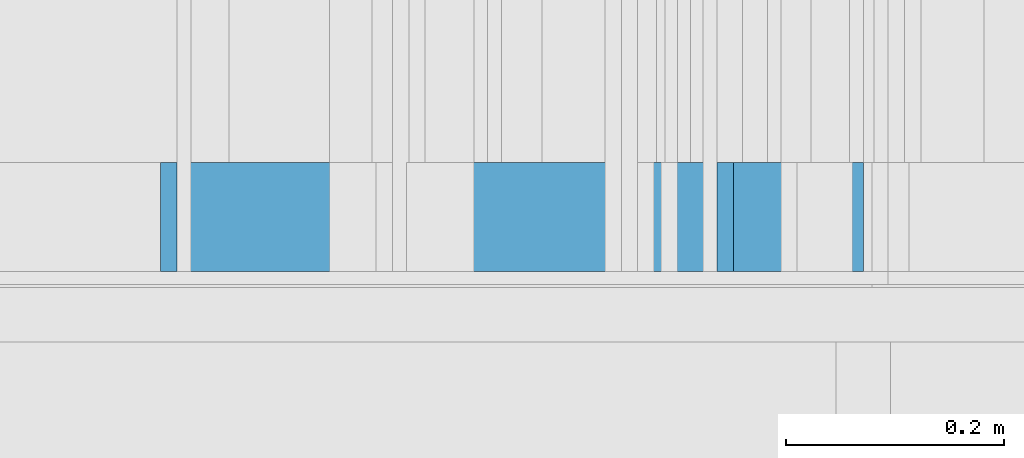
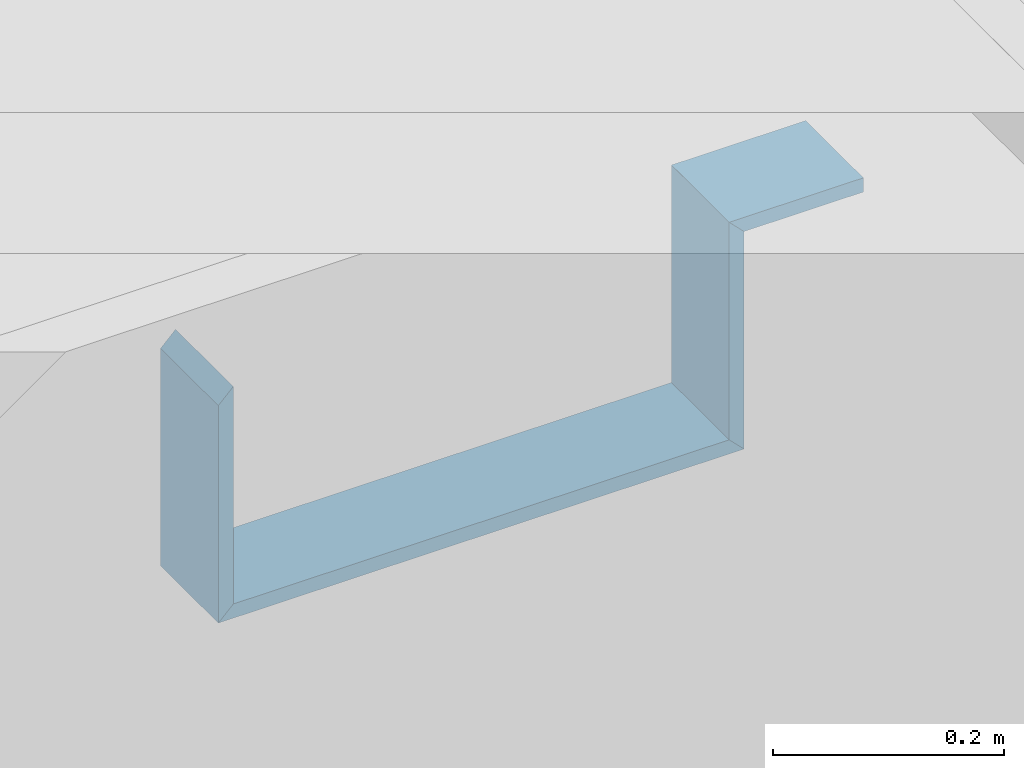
# One storey, part 214 of 583: 4 building element parts, 4 elements without a shape of their own.
"""IFC2X3 building model written with IfcOpenShell, lengths in metres."""

from ifc_helpers import new_model, entity, si_unit, converted_unit, derived_unit, money_unit, direction, frame, origin_with_axes, place, context, subcontext, project, spatial, polyline, outline, extrude, material, type_object, element, aggregate, save


model = new_model("IFC2X3")

# Units and contexts
model_context = context("Model", 3, precision=1e-05, world=origin_with_axes(), true_north=direction((0.0, 1.0)))
body_context = subcontext(model_context, "Body", "Model", "MODEL_VIEW", scale=1.0)
ifc_project = project(units=[si_unit("LENGTHUNIT", "METRE"), si_unit("AREAUNIT", "SQUARE_METRE"), si_unit("VOLUMEUNIT", "CUBIC_METRE"), si_unit("ABSORBEDDOSEUNIT", "GRAY"), si_unit("AMOUNTOFSUBSTANCEUNIT", "MOLE"), si_unit("DOSEEQUIVALENTUNIT", "SIEVERT"), si_unit("ELECTRICCAPACITANCEUNIT", "FARAD"), si_unit("ELECTRICCHARGEUNIT", "COULOMB"), si_unit("ELECTRICCONDUCTANCEUNIT", "SIEMENS"), si_unit("ELECTRICCURRENTUNIT", "AMPERE"), si_unit("ELECTRICRESISTANCEUNIT", "OHM"), si_unit("ELECTRICVOLTAGEUNIT", "VOLT"), si_unit("ENERGYUNIT", "JOULE"), si_unit("FORCEUNIT", "NEWTON"), si_unit("FREQUENCYUNIT", "HERTZ"), si_unit("ILLUMINANCEUNIT", "LUX"), si_unit("INDUCTANCEUNIT", "HENRY"), si_unit("LUMINOUSFLUXUNIT", "LUMEN"), si_unit("LUMINOUSINTENSITYUNIT", "CANDELA"), si_unit("MAGNETICFLUXDENSITYUNIT", "TESLA"), si_unit("MAGNETICFLUXUNIT", "WEBER"), si_unit("MASSUNIT", "GRAM"), converted_unit("PLANEANGLEUNIT", "degree", entity("IfcReal", 0.0174532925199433), si_unit("PLANEANGLEUNIT", "RADIAN"), dimensions=[0, 0, 0, 0, 0, 0, 0]), si_unit("POWERUNIT", "WATT"), si_unit("PRESSUREUNIT", "PASCAL"), si_unit("RADIOACTIVITYUNIT", "BECQUEREL"), si_unit("SOLIDANGLEUNIT", "STERADIAN"), si_unit("THERMODYNAMICTEMPERATUREUNIT", "KELVIN"), si_unit("TIMEUNIT", "SECOND"), derived_unit("ACCELERATIONUNIT", [(si_unit("LENGTHUNIT", "METRE"), 1), (si_unit("TIMEUNIT", "SECOND"), -2)]), derived_unit("ANGULARVELOCITYUNIT", [(converted_unit("PLANEANGLEUNIT", "degree", entity("IfcReal", 0.0174532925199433), si_unit("PLANEANGLEUNIT", "RADIAN"), dimensions=[0, 0, 0, 0, 0, 0, 0]), 1), (si_unit("TIMEUNIT", "SECOND"), -1)]), derived_unit("CURVATUREUNIT", [(converted_unit("PLANEANGLEUNIT", "degree", entity("IfcReal", 0.0174532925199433), si_unit("PLANEANGLEUNIT", "RADIAN"), dimensions=[0, 0, 0, 0, 0, 0, 0]), 1), (si_unit("LENGTHUNIT", "METRE"), -1)]), derived_unit("DYNAMICVISCOSITYUNIT", [(si_unit("PRESSUREUNIT", "PASCAL"), 1), (si_unit("TIMEUNIT", "SECOND"), 1)]), derived_unit("HEATFLUXDENSITYUNIT", [(si_unit("POWERUNIT", "WATT"), 1), (si_unit("LENGTHUNIT", "METRE"), -2)]), derived_unit("HEATINGVALUEUNIT", [(si_unit("ENERGYUNIT", "JOULE"), 1), (si_unit("MASSUNIT", "GRAM"), -1)]), derived_unit("INTEGERCOUNTRATEUNIT", [(si_unit("TIMEUNIT", "SECOND"), -1)]), derived_unit("IONCONCENTRATIONUNIT", [(si_unit("MASSUNIT", "GRAM"), 1), (si_unit("VOLUMEUNIT", "CUBIC_METRE"), -1)]), derived_unit("ISOTHERMALMOISTURECAPACITYUNIT", [(si_unit("VOLUMEUNIT", "CUBIC_METRE"), 1), (si_unit("MASSUNIT", "GRAM"), -1)]), derived_unit("KINEMATICVISCOSITYUNIT", [(si_unit("AREAUNIT", "SQUARE_METRE"), 1), (si_unit("TIMEUNIT", "SECOND"), -1)]), derived_unit("LINEARFORCEUNIT", [(si_unit("FORCEUNIT", "NEWTON"), 1), (si_unit("LENGTHUNIT", "METRE"), -1)]), derived_unit("LINEARMOMENTUNIT", [(si_unit("FORCEUNIT", "NEWTON"), 1), (si_unit("LENGTHUNIT", "METRE"), -1)]), derived_unit("LINEARSTIFFNESSUNIT", [(si_unit("FORCEUNIT", "NEWTON"), 1), (si_unit("LENGTHUNIT", "METRE"), -1)]), derived_unit("LINEARVELOCITYUNIT", [(si_unit("LENGTHUNIT", "METRE"), 1), (si_unit("TIMEUNIT", "SECOND"), -1)]), derived_unit("LUMINOUSINTENSITYDISTRIBUTIONUNIT", [(si_unit("LUMINOUSINTENSITYUNIT", "CANDELA"), 1), (si_unit("LUMINOUSFLUXUNIT", "LUMEN"), -1)]), derived_unit("MASSDENSITYUNIT", [(si_unit("MASSUNIT", "GRAM"), 1), (si_unit("VOLUMEUNIT", "CUBIC_METRE"), -1)]), derived_unit("MASSFLOWRATEUNIT", [(si_unit("MASSUNIT", "GRAM"), 1), (si_unit("TIMEUNIT", "SECOND"), -1)]), derived_unit("MASSPERLENGTHUNIT", [(si_unit("MASSUNIT", "GRAM"), 1), (si_unit("LENGTHUNIT", "METRE"), -1)]), derived_unit("MODULUSOFELASTICITYUNIT", [(si_unit("FORCEUNIT", "NEWTON"), 1), (si_unit("AREAUNIT", "SQUARE_METRE"), -1)]), derived_unit("MODULUSOFLINEARSUBGRADEREACTIONUNIT", [(si_unit("FORCEUNIT", "NEWTON"), 1), (si_unit("LENGTHUNIT", "METRE"), -2)]), derived_unit("MODULUSOFROTATIONALSUBGRADEREACTIONUNIT", [(si_unit("FORCEUNIT", "NEWTON"), 1), (si_unit("LENGTHUNIT", "METRE"), 1)]), derived_unit("MODULUSOFSUBGRADEREACTIONUNIT", [(si_unit("FORCEUNIT", "NEWTON"), 1), (si_unit("VOLUMEUNIT", "CUBIC_METRE"), -1)]), derived_unit("MOISTUREDIFFUSIVITYUNIT", [(si_unit("VOLUMEUNIT", "CUBIC_METRE"), 1), (si_unit("TIMEUNIT", "SECOND"), -1)]), derived_unit("MOLECULARWEIGHTUNIT", [(si_unit("MASSUNIT", "GRAM"), 1), (si_unit("AMOUNTOFSUBSTANCEUNIT", "MOLE"), -1)]), derived_unit("PLANARFORCEUNIT", [(si_unit("FORCEUNIT", "NEWTON"), 1), (si_unit("LENGTHUNIT", "METRE"), -2)]), derived_unit("ROTATIONALFREQUENCYUNIT", [(si_unit("TIMEUNIT", "SECOND"), -1)]), derived_unit("ROTATIONALMASSUNIT", [(si_unit("MASSUNIT", "GRAM"), 1), (si_unit("LENGTHUNIT", "METRE"), 2)]), derived_unit("ROTATIONALSTIFFNESSUNIT", [(si_unit("FORCEUNIT", "NEWTON"), 1), (si_unit("LENGTHUNIT", "METRE"), 1), (converted_unit("PLANEANGLEUNIT", "degree", entity("IfcReal", 0.0174532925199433), si_unit("PLANEANGLEUNIT", "RADIAN"), dimensions=[0, 0, 0, 0, 0, 0, 0]), -1)]), derived_unit("SECTIONAREAINTEGRALUNIT", [(si_unit("LENGTHUNIT", "METRE"), 5)]), derived_unit("SECTIONMODULUSUNIT", [(si_unit("LENGTHUNIT", "METRE"), 3)]), derived_unit("SHEARMODULUSUNIT", [(si_unit("FORCEUNIT", "NEWTON"), 1), (si_unit("AREAUNIT", "SQUARE_METRE"), -1)]), derived_unit("SOUNDPOWERUNIT", [(si_unit("ENERGYUNIT", "JOULE"), 1), (si_unit("TIMEUNIT", "SECOND"), -1)]), derived_unit("SPECIFICHEATCAPACITYUNIT", [(si_unit("FORCEUNIT", "NEWTON"), 1), (si_unit("MASSUNIT", "GRAM"), -1), (si_unit("THERMODYNAMICTEMPERATUREUNIT", "KELVIN"), -1)]), derived_unit("TEMPERATUREGRADIENTUNIT", [(si_unit("THERMODYNAMICTEMPERATUREUNIT", "KELVIN"), 1), (si_unit("LENGTHUNIT", "METRE"), -1)]), derived_unit("THERMALADMITTANCEUNIT", [(si_unit("POWERUNIT", "WATT"), 1), (si_unit("AREAUNIT", "SQUARE_METRE"), -1), (si_unit("THERMODYNAMICTEMPERATUREUNIT", "KELVIN"), -1)]), derived_unit("THERMALCONDUCTANCEUNIT", [(si_unit("POWERUNIT", "WATT"), 1), (si_unit("LENGTHUNIT", "METRE"), -1), (si_unit("THERMODYNAMICTEMPERATUREUNIT", "KELVIN"), -1)]), derived_unit("THERMALEXPANSIONCOEFFICIENTUNIT", [(si_unit("THERMODYNAMICTEMPERATUREUNIT", "KELVIN"), -1)]), derived_unit("THERMALRESISTANCEUNIT", [(si_unit("AREAUNIT", "SQUARE_METRE"), 1), (si_unit("POWERUNIT", "WATT"), -1)]), derived_unit("THERMALTRANSMITTANCEUNIT", [(si_unit("POWERUNIT", "WATT"), 1), (si_unit("AREAUNIT", "SQUARE_METRE"), -1), (si_unit("THERMODYNAMICTEMPERATUREUNIT", "KELVIN"), -1)]), derived_unit("TORQUEUNIT", [(si_unit("FORCEUNIT", "NEWTON"), 1), (si_unit("LENGTHUNIT", "METRE"), 1)]), derived_unit("VAPORPERMEABILITYUNIT", [(si_unit("MASSUNIT", "GRAM"), 1), (si_unit("TIMEUNIT", "SECOND"), -1)]), derived_unit("VOLUMETRICFLOWRATEUNIT", [(si_unit("VOLUMEUNIT", "CUBIC_METRE"), 1), (si_unit("TIMEUNIT", "SECOND"), -1)]), derived_unit("WARPINGCONSTANTUNIT", [(si_unit("LENGTHUNIT", "METRE"), 6)]), derived_unit("WARPINGMOMENTUNIT", [(si_unit("FORCEUNIT", "NEWTON"), 1), (si_unit("LENGTHUNIT", "METRE"), 2)]), money_unit("GBP")], contexts=[model_context])

# Site, building, storey
site_placement = place(None, origin_with_axes())
site = spatial("IfcSite", under=ifc_project, at=site_placement, Name="Site", CompositionType="ELEMENT")
building_placement = place(site_placement, origin_with_axes())
building = spatial("IfcBuilding", under=site, at=building_placement, Name="Building01", CompositionType="ELEMENT")
storey_placement = place(building_placement, frame((0.0, 0.0, 20.78), z_axis=(0.0, 0.0, 1.0), x_axis=(1.0, 0.0, 0.0)))
storey = spatial("IfcBuildingStorey", under=building, at=storey_placement, Name="RL", CompositionType="ELEMENT", Elevation=20.78)

# Wall, building element part
wall_type = type_object("IfcWallType", Name="SHE_A-Walls_Type06d_ExternalWallInsulation_48mm", PredefinedType="NOTDEFINED")
wall_1_placement = place(storey_placement, frame((6.1, 12.13, 5.93), z_axis=(0.0, 1.0, 0.0), x_axis=(0.0, 0.0, -1.0)))
wall_1 = element("IfcWall", 1, at=wall_1_placement, inside=storey, type_object=wall_type, Name="6D", ObjectType="SHE_A-Walls_Type06d_ExternalWallInsulation_48mm")
ifc_material = material(Name="A_BSUK_Walls_Timber")
building_element_part_1_placement = place(wall_1_placement, origin_with_axes())
building_element_part_1 = element("IfcBuildingElementPart", 2, at=building_element_part_1_placement, material=ifc_material, Name="2", context=body_context, shape_type="SweptSolid", body=[
    extrude(outline(polyline([(0.293, 0.063), (0.063, 0.063), (0.048, 0.048), (0.278, 0.048), (0.293, 0.063)])), frame((0.0, 0.0, 0.015), z_axis=(0.0, 0.0, 1.0), x_axis=(1.0, 0.0, 0.0)), (0.0, 0.0, 1.0), 0.1),
])
aggregate(wall_1, [building_element_part_1])

wall_2_placement = place(storey_placement, frame((6.1, 12.13, 5.7), z_axis=(0.0, 1.0, 0.0), x_axis=(1.0, 0.0, 0.0)))
wall_2 = element("IfcWall", 3, at=wall_2_placement, inside=storey, type_object=wall_type, Name="6D", ObjectType="SHE_A-Walls_Type06d_ExternalWallInsulation_48mm")
building_element_part_2_placement = place(wall_2_placement, origin_with_axes())
building_element_part_2 = element("IfcBuildingElementPart", 4, at=building_element_part_2_placement, material=ifc_material, Name="2", context=body_context, shape_type="SweptSolid", body=[
    extrude(outline(polyline([(0.463, 0.063), (-0.063, 0.063), (-0.048, 0.048), (0.448, 0.048), (0.463, 0.063)])), frame((0.0, 0.0, 0.015), z_axis=(0.0, 0.0, 1.0), x_axis=(1.0, 0.0, 0.0)), (0.0, 0.0, 1.0), 0.1),
])
aggregate(wall_2, [building_element_part_2])

wall_3_placement = place(storey_placement, frame((6.5, 12.13, 5.7), z_axis=(0.0, 1.0, 0.0), x_axis=(0.0, 0.0, 1.0)))
wall_3 = element("IfcWall", 5, at=wall_3_placement, inside=storey, type_object=wall_type, Name="6D", ObjectType="SHE_A-Walls_Type06d_ExternalWallInsulation_48mm")
building_element_part_3_placement = place(wall_3_placement, origin_with_axes())
building_element_part_3 = element("IfcBuildingElementPart", 6, at=building_element_part_3_placement, material=ifc_material, Name="2", context=body_context, shape_type="SweptSolid", body=[
    extrude(outline(polyline([(0.167, 0.063), (-0.063, 0.063), (-0.048, 0.048), (0.182, 0.048), (0.167, 0.063)])), frame((0.0, 0.0, 0.015), z_axis=(0.0, 0.0, 1.0), x_axis=(1.0, 0.0, 0.0)), (0.0, 0.0, 1.0), 0.1),
])
aggregate(wall_3, [building_element_part_3])

wall_4_placement = place(storey_placement, frame((6.5, 12.13, 5.93), z_axis=(0.0, 1.0, 0.0), x_axis=(1.0, 0.0, 0.0)))
wall_4 = element("IfcWall", 7, at=wall_4_placement, inside=storey, type_object=wall_type, Name="6D", ObjectType="SHE_A-Walls_Type06d_ExternalWallInsulation_48mm")
building_element_part_4_placement = place(wall_4_placement, origin_with_axes())
building_element_part_4 = element("IfcBuildingElementPart", 8, at=building_element_part_4_placement, material=ifc_material, Name="2", context=body_context, shape_type="SweptSolid", body=[
    extrude(outline(polyline([(0.063, 0.063), (0.048, 0.048), (0.182326, 0.048), (0.182326, 0.063), (0.063, 0.063)])), frame((0.0, 0.0, 0.015), z_axis=(0.0, 0.0, 1.0), x_axis=(1.0, 0.0, 0.0)), (0.0, 0.0, 1.0), 0.1),
])
aggregate(wall_4, [building_element_part_4])

save(model, "model.ifc")
